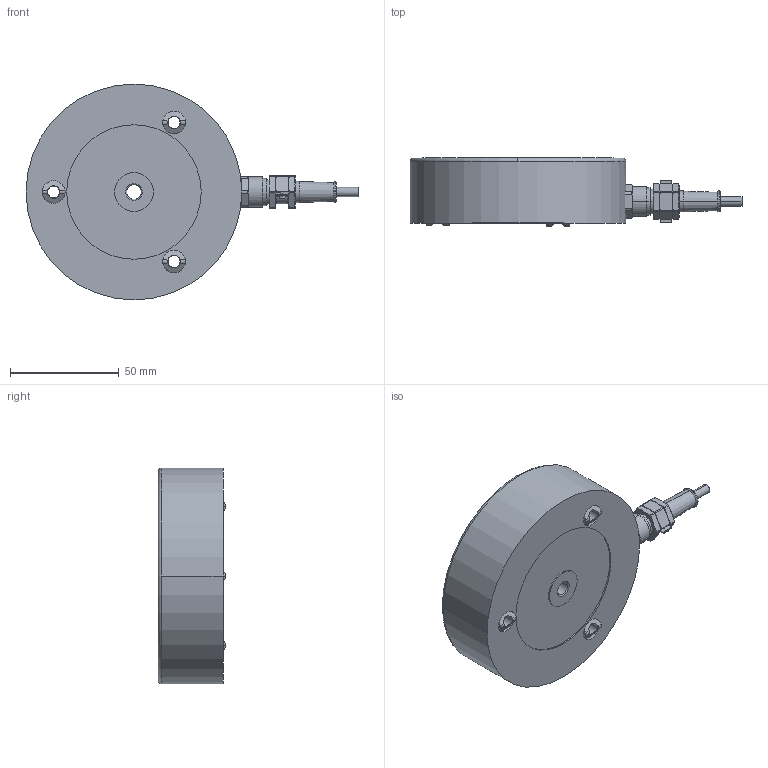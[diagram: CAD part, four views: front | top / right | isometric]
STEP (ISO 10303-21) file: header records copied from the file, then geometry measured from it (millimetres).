
FILE_DESCRIPTION(('STEP AP203'),'1');
FILE_NAME('C:/TPO v2/SharedFS/Outgoing/burster_8531-2000_cr86426kzv42ayaj36q3xwckj.stp','2013-08-28T17:35:33',('TraceParts'),('TraceParts S.A.'),'XStep 1.0',' ',' ');
FILE_SCHEMA(('CONFIG_CONTROL_DESIGN'));
Length unit declared in the file: millimetre
Products named in the file (1): 1
Bounding box: 153 x 31.3 x 99.5 mm (x, y, z)
Volume: 230426.6 mm3; surface area: 29751.3 mm2
Topology: 1 solids, 1 shells, 221 faces, 529 edges, 330 vertices
Faces by surface type: cylinder 108, plane 61, cone 46, torus 6
Entity records: 6525 total; most frequent: CARTESIAN_POINT 1377, DIRECTION 1131, ORIENTED_EDGE 1058, EDGE_CURVE 529, AXIS2_PLACEMENT_3D 484, VERTEX_POINT 330, EDGE_LOOP 253, CIRCLE 230
